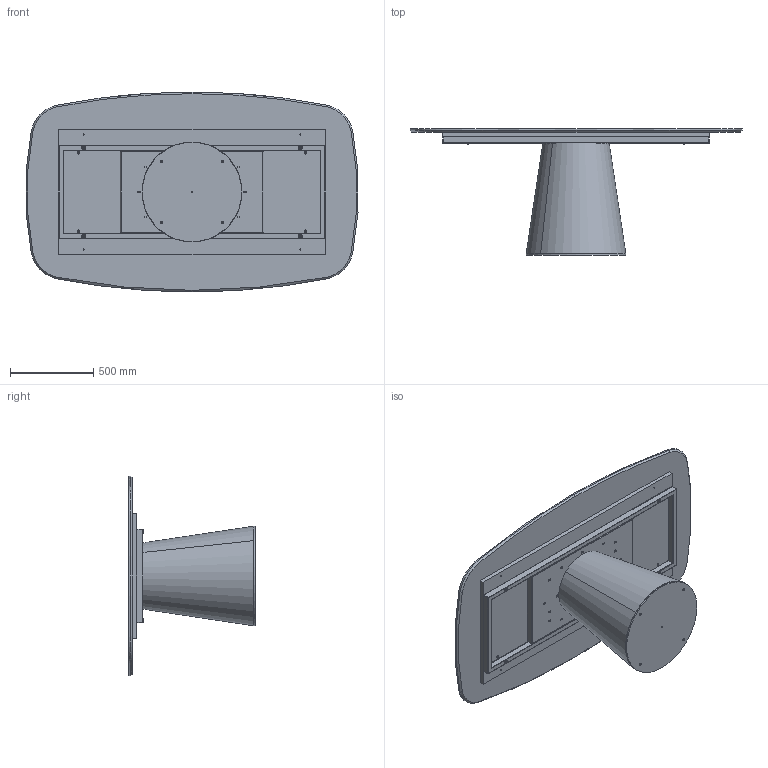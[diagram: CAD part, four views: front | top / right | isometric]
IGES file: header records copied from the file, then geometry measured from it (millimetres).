
Start section: SolidWorks IGES file using analytic representation for surfaces
Global section: file name: Y:\eforma\TECNICO\SOLIDWORKS\E-FORMA\1-TAVOLI\TEO\08 modelli 3D web\TO41M_Teo_200x120_Marble Shaped.IGS; native system: SolidWorks 2022; preprocessor: SolidWorks 2022; author: eforma.tech; date: 240802.113000; units: millimetre
Bounding box: 1992.14 x 758.19 x 1200 mm (x, y, z)
Volume: 105059751 mm3; surface area: 12374522 mm2
Topology: 26 solids, 26 shells, 908 faces, 2102 edges, 1215 vertices
Faces by surface type: revolution 556, plane 352
